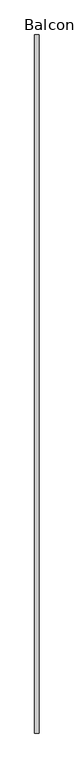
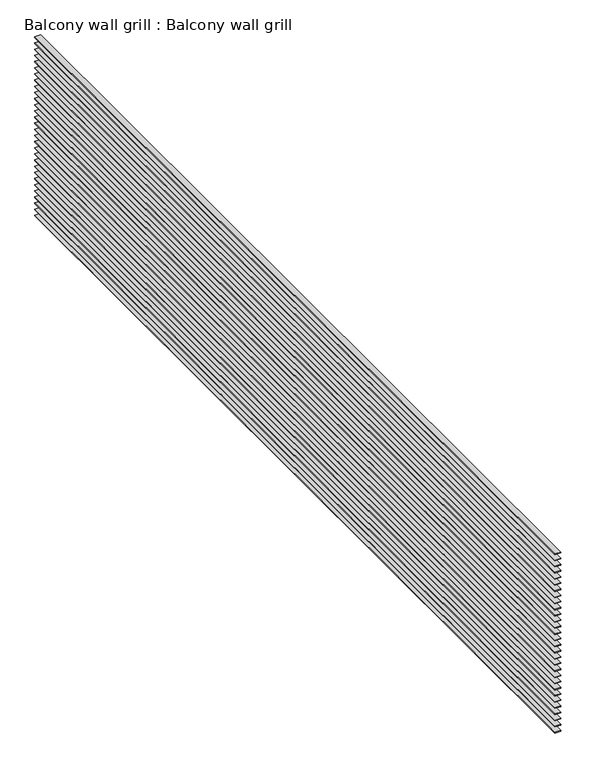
"""IFC4 building model written with IfcOpenShell, lengths in millimetres: proxy geometry, Balcony wall grill : Balcony wall grill."""

from ifc_helpers import new_model, si_unit, frame, origin, place, context, project, spatial, polyline, outline, extrude, source, transform, mapped, element, save


def balcony_wall_grill_balcony_wall_grill_33bcebcc(model_context):
    return source(origin(), model_context, "Body", "SweptSolid", [
        extrude(outline(polyline([(101.6, -15836.9), (0.0, -15836.9), (0.0, 0.0), (101.6, 0.0), (101.6, -15836.9)])), frame((0.0, 0.0, 2425.7), z_axis=(0.0, 0.0, 1.0), x_axis=(1.0, 0.0, 0.0)), (0.0, 0.0, 1.0), 12.7),
        extrude(outline(polyline([(101.6, -15836.9), (0.0, -15836.9), (0.0, 0.0), (101.6, 0.0), (101.6, -15836.9)])), frame((0.0, 0.0, 2311.4), z_axis=(0.0, 0.0, 1.0), x_axis=(1.0, 0.0, 0.0)), (0.0, 0.0, 1.0), 12.7),
        extrude(outline(polyline([(101.6, -15836.9), (0.0, -15836.9), (0.0, 0.0), (101.6, 0.0), (101.6, -15836.9)])), frame((0.0, 0.0, 2197.1), z_axis=(0.0, 0.0, 1.0), x_axis=(1.0, 0.0, 0.0)), (0.0, 0.0, 1.0), 12.7),
        extrude(outline(polyline([(101.6, -15836.9), (0.0, -15836.9), (0.0, 0.0), (101.6, 0.0), (101.6, -15836.9)])), frame((0.0, 0.0, 2082.8), z_axis=(0.0, 0.0, 1.0), x_axis=(1.0, 0.0, 0.0)), (0.0, 0.0, 1.0), 12.7),
        extrude(outline(polyline([(101.6, -15836.9), (0.0, -15836.9), (0.0, 0.0), (101.6, 0.0), (101.6, -15836.9)])), frame((0.0, 0.0, 1968.5), z_axis=(0.0, 0.0, 1.0), x_axis=(1.0, 0.0, 0.0)), (0.0, 0.0, 1.0), 12.7),
        extrude(outline(polyline([(101.6, -15836.9), (0.0, -15836.9), (0.0, 0.0), (101.6, 0.0), (101.6, -15836.9)])), frame((0.0, 0.0, 1854.2), z_axis=(0.0, 0.0, 1.0), x_axis=(1.0, 0.0, 0.0)), (0.0, 0.0, 1.0), 12.7),
        extrude(outline(polyline([(101.6, -15836.9), (0.0, -15836.9), (0.0, 0.0), (101.6, 0.0), (101.6, -15836.9)])), frame((0.0, 0.0, 1739.9), z_axis=(0.0, 0.0, 1.0), x_axis=(1.0, 0.0, 0.0)), (0.0, 0.0, 1.0), 12.7),
        extrude(outline(polyline([(101.6, -15836.9), (0.0, -15836.9), (0.0, 0.0), (101.6, 0.0), (101.6, -15836.9)])), frame((0.0, 0.0, 1625.6), z_axis=(0.0, 0.0, 1.0), x_axis=(1.0, 0.0, 0.0)), (0.0, 0.0, 1.0), 12.7),
        extrude(outline(polyline([(101.6, -15836.9), (0.0, -15836.9), (0.0, 0.0), (101.6, 0.0), (101.6, -15836.9)])), frame((0.0, 0.0, 1511.3), z_axis=(0.0, 0.0, 1.0), x_axis=(1.0, 0.0, 0.0)), (0.0, 0.0, 1.0), 12.7),
        extrude(outline(polyline([(101.6, -15836.9), (0.0, -15836.9), (0.0, 0.0), (101.6, 0.0), (101.6, -15836.9)])), frame((0.0, 0.0, 1397.0), z_axis=(0.0, 0.0, 1.0), x_axis=(1.0, 0.0, 0.0)), (0.0, 0.0, 1.0), 12.7),
        extrude(outline(polyline([(101.6, -15836.9), (0.0, -15836.9), (0.0, 0.0), (101.6, 0.0), (101.6, -15836.9)])), frame((0.0, 0.0, 1282.7), z_axis=(0.0, 0.0, 1.0), x_axis=(1.0, 0.0, 0.0)), (0.0, 0.0, 1.0), 12.7),
        extrude(outline(polyline([(101.6, -15836.9), (0.0, -15836.9), (0.0, 0.0), (101.6, 0.0), (101.6, -15836.9)])), frame((0.0, 0.0, 1168.4), z_axis=(0.0, 0.0, 1.0), x_axis=(1.0, 0.0, 0.0)), (0.0, 0.0, 1.0), 12.7),
        extrude(outline(polyline([(101.6, -15836.9), (0.0, -15836.9), (0.0, 0.0), (101.6, 0.0), (101.6, -15836.9)])), frame((0.0, 0.0, 1054.1), z_axis=(0.0, 0.0, 1.0), x_axis=(1.0, 0.0, 0.0)), (0.0, 0.0, 1.0), 12.7),
        extrude(outline(polyline([(101.6, -15836.9), (0.0, -15836.9), (0.0, 0.0), (101.6, 0.0), (101.6, -15836.9)])), frame((0.0, 0.0, 939.8), z_axis=(0.0, 0.0, 1.0), x_axis=(1.0, 0.0, 0.0)), (0.0, 0.0, 1.0), 12.7),
        extrude(outline(polyline([(101.6, -15836.9), (0.0, -15836.9), (0.0, 0.0), (101.6, 0.0), (101.6, -15836.9)])), frame((0.0, 0.0, 825.5), z_axis=(0.0, 0.0, 1.0), x_axis=(1.0, 0.0, 0.0)), (0.0, 0.0, 1.0), 12.7),
        extrude(outline(polyline([(101.6, -15836.9), (0.0, -15836.9), (0.0, 0.0), (101.6, 0.0), (101.6, -15836.9)])), frame((0.0, 0.0, 711.2), z_axis=(0.0, 0.0, 1.0), x_axis=(1.0, 0.0, 0.0)), (0.0, 0.0, 1.0), 12.7),
        extrude(outline(polyline([(101.6, -15836.9), (0.0, -15836.9), (0.0, 0.0), (101.6, 0.0), (101.6, -15836.9)])), frame((0.0, 0.0, 596.9), z_axis=(0.0, 0.0, 1.0), x_axis=(1.0, 0.0, 0.0)), (0.0, 0.0, 1.0), 12.7),
        extrude(outline(polyline([(101.6, -15836.9), (0.0, -15836.9), (0.0, 0.0), (101.6, 0.0), (101.6, -15836.9)])), frame((0.0, 0.0, 482.6), z_axis=(0.0, 0.0, 1.0), x_axis=(1.0, 0.0, 0.0)), (0.0, 0.0, 1.0), 12.7),
        extrude(outline(polyline([(101.6, -15836.9), (0.0, -15836.9), (0.0, 0.0), (101.6, 0.0), (101.6, -15836.9)])), frame((0.0, 0.0, 368.3), z_axis=(0.0, 0.0, 1.0), x_axis=(1.0, 0.0, 0.0)), (0.0, 0.0, 1.0), 12.7),
        extrude(outline(polyline([(101.6, -15836.9), (0.0, -15836.9), (0.0, 0.0), (101.6, 0.0), (101.6, -15836.9)])), frame((0.0, 0.0, 254.0), z_axis=(0.0, 0.0, 1.0), x_axis=(1.0, 0.0, 0.0)), (0.0, 0.0, 1.0), 12.7),
        extrude(outline(polyline([(101.6, -15836.9), (0.0, -15836.9), (0.0, 0.0), (101.6, 0.0), (101.6, -15836.9)])), frame((0.0, 0.0, 139.7), z_axis=(0.0, 0.0, 1.0), x_axis=(1.0, 0.0, 0.0)), (0.0, 0.0, 1.0), 12.7),
        extrude(outline(polyline([(101.6, -15836.9), (0.0, -15836.9), (0.0, 0.0), (101.6, 0.0), (101.6, -15836.9)])), frame((0.0, 0.0, 25.4), z_axis=(0.0, 0.0, 1.0), x_axis=(1.0, 0.0, 0.0)), (0.0, 0.0, 1.0), 12.7),
        extrude(outline(polyline([(101.6, -15836.9), (0.0, -15836.9), (0.0, 0.0), (101.6, 0.0), (101.6, -15836.9)])), frame((0.0, 0.0, -88.9), z_axis=(0.0, 0.0, 1.0), x_axis=(1.0, 0.0, 0.0)), (0.0, 0.0, 1.0), 12.7),
        extrude(outline(polyline([(101.6, -15836.9), (0.0, -15836.9), (0.0, 0.0), (101.6, 0.0), (101.6, -15836.9)])), frame((0.0, 0.0, -203.2), z_axis=(0.0, 0.0, 1.0), x_axis=(1.0, 0.0, 0.0)), (0.0, 0.0, 1.0), 12.7),
        extrude(outline(polyline([(101.6, -15836.9), (0.0, -15836.9), (0.0, 0.0), (101.6, 0.0), (101.6, -15836.9)])), frame((0.0, 0.0, -317.5), z_axis=(0.0, 0.0, 1.0), x_axis=(1.0, 0.0, 0.0)), (0.0, 0.0, 1.0), 12.7),
        extrude(outline(polyline([(101.6, -15836.9), (0.0, -15836.9), (0.0, 0.0), (101.6, 0.0), (101.6, -15836.9)])), frame((0.0, 0.0, -431.8), z_axis=(0.0, 0.0, 1.0), x_axis=(1.0, 0.0, 0.0)), (0.0, 0.0, 1.0), 12.7),
        extrude(outline(polyline([(101.6, -15836.9), (0.0, -15836.9), (0.0, 0.0), (101.6, 0.0), (101.6, -15836.9)])), frame((0.0, 0.0, -546.1), z_axis=(0.0, 0.0, 1.0), x_axis=(1.0, 0.0, 0.0)), (0.0, 0.0, 1.0), 12.7),
        extrude(outline(polyline([(101.6, -15836.9), (0.0, -15836.9), (0.0, 0.0), (101.6, 0.0), (101.6, -15836.9)])), frame((0.0, 0.0, -660.4), z_axis=(0.0, 0.0, 1.0), x_axis=(1.0, 0.0, 0.0)), (0.0, 0.0, 1.0), 12.7),
        extrude(outline(polyline([(101.6, -15836.9), (0.0, -15836.9), (0.0, 0.0), (101.6, 0.0), (101.6, -15836.9)])), frame((0.0, 0.0, -774.7), z_axis=(0.0, 0.0, 1.0), x_axis=(1.0, 0.0, 0.0)), (0.0, 0.0, 1.0), 12.7),
        extrude(outline(polyline([(101.6, -15836.9), (0.0, -15836.9), (0.0, 0.0), (101.6, 0.0), (101.6, -15836.9)])), frame((0.0, 0.0, -889.0), z_axis=(0.0, 0.0, 1.0), x_axis=(1.0, 0.0, 0.0)), (0.0, 0.0, 1.0), 12.7),
    ])


if __name__ == "__main__":
    model = new_model("IFC4")
    model_context = context("Model", 3, world=origin())
    ifc_project = project(units=[si_unit("LENGTHUNIT", "METRE", prefix="MILLI")], contexts=[model_context])
    site = spatial("IfcSite", under=ifc_project)
    building = spatial("IfcBuilding", under=site)
    placement = place(None, origin())
    balcony_wall_grill_balcony_wall_grill_shape = balcony_wall_grill_balcony_wall_grill_33bcebcc(model_context)
    element("IfcBuildingElementProxy", 1, Name="Balcony wall grill : Balcony wall grill", ObjectType="Balcony wall grill : Balcony wall grill", at=placement, inside=building, context=model_context, shape_type="MappedRepresentation", body=[
        mapped(balcony_wall_grill_balcony_wall_grill_shape, transform((0.0, 0.0, 0.0), x_axis=(1.0, 0.0, 0.0), y_axis=(0.0, 1.0, 0.0), z_axis=(0.0, 0.0, 1.0))),
    ])
    save(model, "model.ifc")
